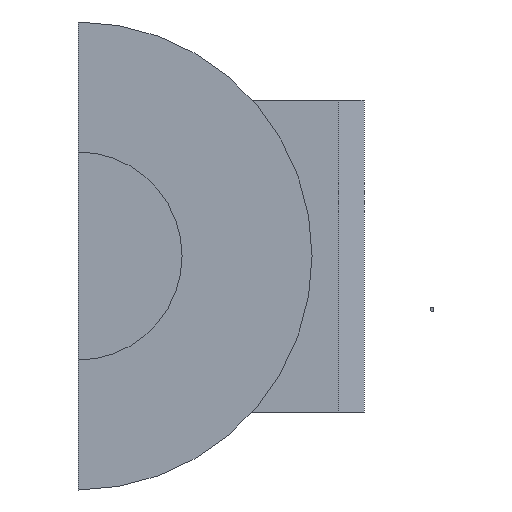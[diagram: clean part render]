
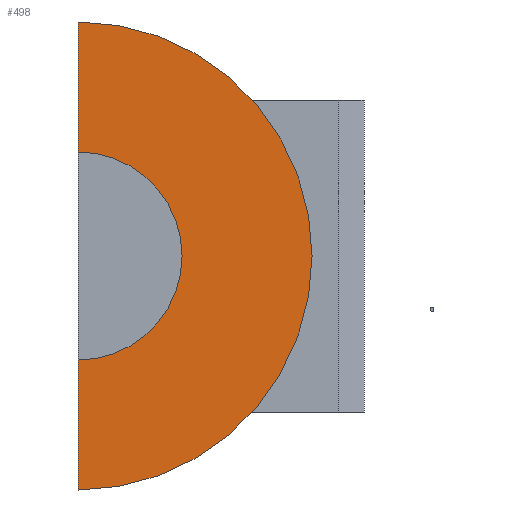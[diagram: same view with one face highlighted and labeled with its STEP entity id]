
A CAD part, front view. The second image highlights one B-rep face of the part: STEP entity #498.
In plain terms, the highlighted planar face has unit normal (0, -1, 0).
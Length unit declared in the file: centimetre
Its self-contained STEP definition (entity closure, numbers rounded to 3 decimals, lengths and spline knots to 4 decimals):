
#109=VECTOR('',#585,1.);
#152=LINE('',#686,#109);
#194=PLANE('',#530);
#219=VERTEX_POINT('',#676);
#220=VERTEX_POINT('',#678);
#221=VERTEX_POINT('',#684);
#222=VERTEX_POINT('',#685);
#255=CIRCLE('',#528,2.8575);
#256=CIRCLE('',#531,1.27);
#270=EDGE_CURVE('',#219,#220,#255,.T.);
#274=EDGE_CURVE('',#221,#222,#256,.T.);
#275=EDGE_CURVE('',#220,#221,#152,.T.);
#276=EDGE_CURVE('',#222,#219,#152,.T.);
#336=ORIENTED_EDGE('',*,*,#274,.F.);
#337=ORIENTED_EDGE('',*,*,#275,.F.);
#338=ORIENTED_EDGE('',*,*,#270,.F.);
#339=ORIENTED_EDGE('',*,*,#276,.F.);
#443=EDGE_LOOP('',(#336,#337,#338,#339));
#471=FACE_BOUND('',#443,.T.);
#498=ADVANCED_FACE('',(#471),#194,.F.);
#528=AXIS2_PLACEMENT_3D('',#677,#577,#578);
#530=AXIS2_PLACEMENT_3D('',#682,#582,$);
#531=AXIS2_PLACEMENT_3D('',#683,#583,#584);
#577=DIRECTION('',(0.,1.,0.));
#578=DIRECTION('',(2.858,0.,0.));
#582=DIRECTION('',(0.,1.,0.));
#583=DIRECTION('',(0.,-1.,0.));
#584=DIRECTION('',(1.27,0.,0.));
#585=DIRECTION('',(0.,0.,1.));
#676=CARTESIAN_POINT('',(0.,0.3175,2.8575));
#677=CARTESIAN_POINT('',(0.,0.3175,0.));
#678=CARTESIAN_POINT('',(0.,0.3175,-2.8575));
#682=CARTESIAN_POINT('',(1.0022,0.3175,0.));
#683=CARTESIAN_POINT('',(0.,0.3175,0.));
#684=CARTESIAN_POINT('',(0.,0.3175,-1.27));
#685=CARTESIAN_POINT('',(0.,0.3175,1.27));
#686=CARTESIAN_POINT('',(0.,0.3175,-2.8575));
